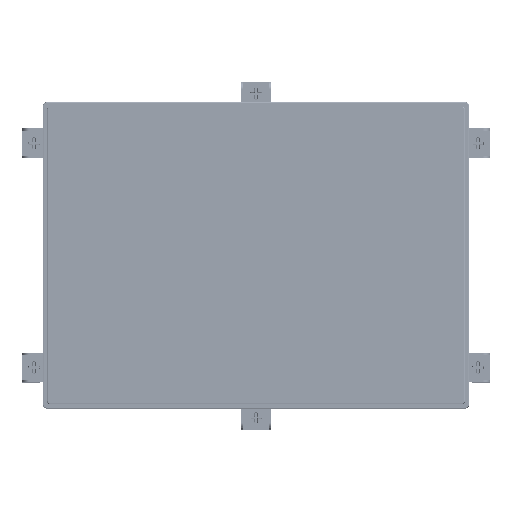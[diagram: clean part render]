
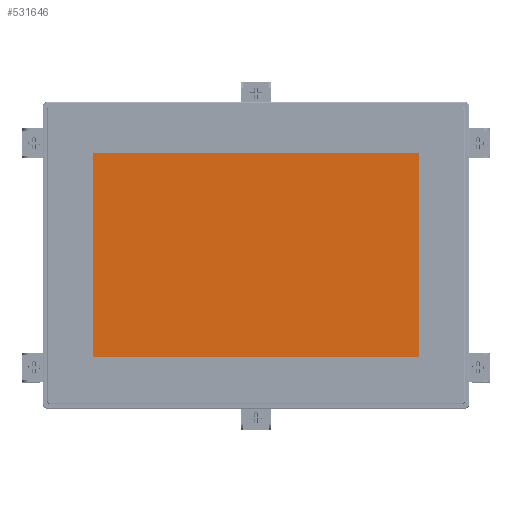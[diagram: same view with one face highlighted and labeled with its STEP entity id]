
A CAD part, top view. The second image highlights one B-rep face of the part: STEP entity #531646.
In plain terms, the highlighted planar face has unit normal (0, 0, 1).
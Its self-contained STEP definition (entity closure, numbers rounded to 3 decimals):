
#169600=DIRECTION('',(0.,-1.,0.));
#169601=VECTOR('',#169600,136.6);
#169602=CARTESIAN_POINT('',(109.,68.3,5.498));
#169603=LINE('',#169602,#169601);
#169604=DIRECTION('',(-1.,0.,0.));
#169605=VECTOR('',#169604,218.);
#169606=CARTESIAN_POINT('',(109.,-68.3,5.498));
#169607=LINE('',#169606,#169605);
#169608=DIRECTION('',(0.,1.,0.));
#169609=VECTOR('',#169608,136.6);
#169610=CARTESIAN_POINT('',(-109.,-68.3,5.498));
#169611=LINE('',#169610,#169609);
#169612=DIRECTION('',(1.,0.,0.));
#169613=VECTOR('',#169612,218.);
#169614=CARTESIAN_POINT('',(-109.,68.3,5.498));
#169615=LINE('',#169614,#169613);
#249881=CARTESIAN_POINT('',(109.,68.3,5.498));
#249883=VERTEX_POINT('',#249881);
#249884=CARTESIAN_POINT('',(109.,-68.3,5.498));
#249885=VERTEX_POINT('',#249884);
#249888=CARTESIAN_POINT('',(-109.,-68.3,5.498));
#249889=VERTEX_POINT('',#249888);
#249892=CARTESIAN_POINT('',(-109.,68.3,5.498));
#249893=VERTEX_POINT('',#249892);
#531635=CARTESIAN_POINT('',(0.,0.,5.498));
#531636=DIRECTION('',(0.,0.,1.));
#531637=DIRECTION('',(-1.,0.,0.));
#531638=AXIS2_PLACEMENT_3D('',#531635,#531636,#531637);
#531639=PLANE('',#531638);
#531640=ORIENTED_EDGE('',*,*,#531559,.T.);
#531641=ORIENTED_EDGE('',*,*,#531581,.T.);
#531642=ORIENTED_EDGE('',*,*,#531602,.T.);
#531643=ORIENTED_EDGE('',*,*,#531622,.T.);
#531644=EDGE_LOOP('',(#531640,#531641,#531642,#531643));
#531645=FACE_OUTER_BOUND('',#531644,.F.);
#531646=ADVANCED_FACE('',(#531645),#531639,.T.);
#531559=EDGE_CURVE('',#249883,#249885,#169603,.T.);
#531581=EDGE_CURVE('',#249885,#249889,#169607,.T.);
#531602=EDGE_CURVE('',#249889,#249893,#169611,.T.);
#531622=EDGE_CURVE('',#249893,#249883,#169615,.T.);
